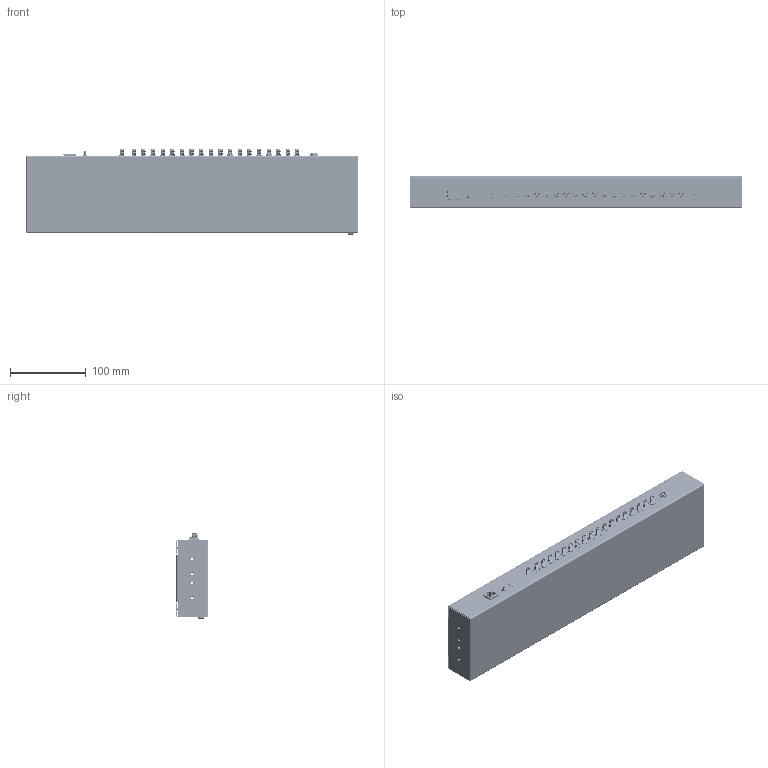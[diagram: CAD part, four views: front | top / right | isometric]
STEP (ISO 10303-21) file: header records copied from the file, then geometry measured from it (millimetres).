
FILE_DESCRIPTION((''),'2;1');
FILE_NAME('CU_ETTUS_OCTOCLOCK','2016-07-07T',('jjorden'),(''),'CREO PARAMETRIC BY PTC INC, 2015380','CREO PARAMETRIC BY PTC INC, 2015380','');
FILE_SCHEMA(('CONFIG_CONTROL_DESIGN'));
Products named in the file (1): CU_ETTUS_OCTOCLOCK
Bounding box: 437.53 x 42.82 x 114.38 mm (x, y, z)
Volume: 157355.8 mm3; surface area: 291832.8 mm2
Topology: 28 solids, 28 shells, 8785 faces, 24979 edges, 16139 vertices
Faces by surface type: plane 3829, cylinder 3222, bspline 687, cone 627, extrusion 399, torus 12, sphere 9
Entity records: 652216 total; most frequent: CARTESIAN_POINT 440204, ORIENTED_EDGE 49794, DIRECTION 35814, EDGE_CURVE 24897, VERTEX_POINT 16139, AXIS2_PLACEMENT_3D 12102, VECTOR 11610, LINE 11211
